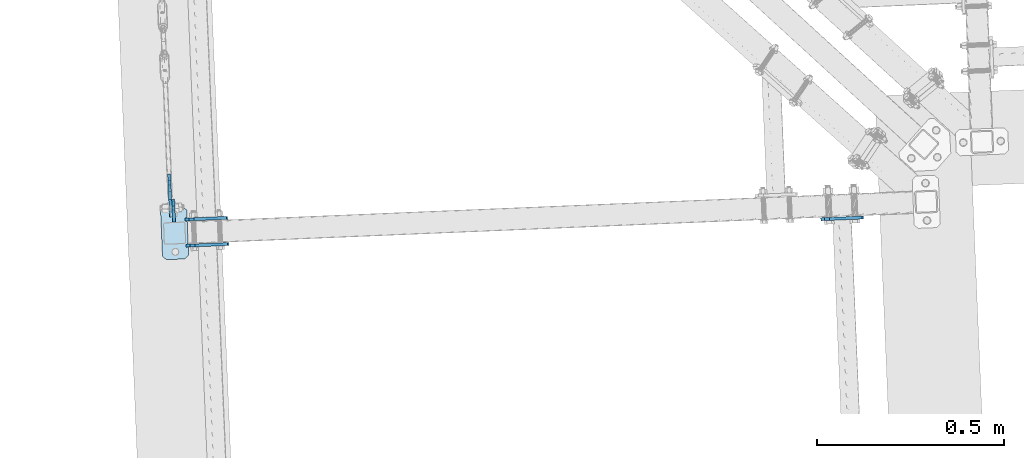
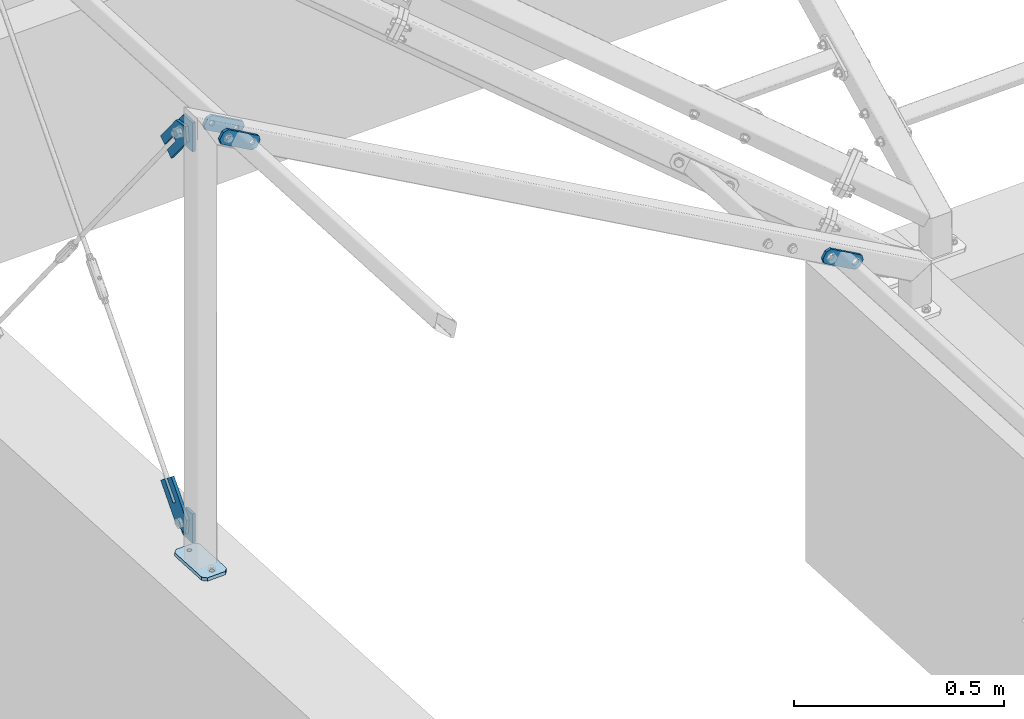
# One storey, part 51 of 288: 8 plates, 36 openings.
"""IFC2X3 building model written with IfcOpenShell, lengths in millimetres."""

from ifc_helpers import new_model, entity, si_unit, converted_unit, point, frame, frame_2d, origin, origin_with_axes, origin_2d_with_axis, place, context, project, spatial, polyline, circle_curve, line_curve, trimmed, segment, composite_curve, circle, outline, extrude, material, layer, layer_set, element, save


model = new_model("IFC2X3")

# Units and contexts
model_context = context("Model", 3, precision=1e-09, world=origin_with_axes())
ifc_project = project(units=[si_unit("LENGTHUNIT", "METRE", prefix="MILLI"), si_unit("AREAUNIT", "SQUARE_METRE"), si_unit("VOLUMEUNIT", "CUBIC_METRE"), converted_unit("PLANEANGLEUNIT", "DEGREE", entity("IfcPlaneAngleMeasure", 0.01745329), si_unit("PLANEANGLEUNIT", "RADIAN"), dimensions=[0, 0, 0, 0, 0, 0, 0])], contexts=[model_context])

# Site, building, storey
site_placement = place(None, origin_with_axes())
site = spatial("IfcSite", under=ifc_project, at=site_placement, Name="Remont ?wietlik?w nad MC w NCPP w Opolu", CompositionType="ELEMENT")
building_placement = place(site_placement, origin_with_axes())
building = spatial("IfcBuilding", under=site, at=building_placement, Name="Konstrukcja 1", CompositionType="ELEMENT")
storey_placement = place(building_placement, origin_with_axes())
storey = spatial("IfcBuildingStorey", under=building, at=storey_placement, Name="Default Storey", CompositionType="ELEMENT", Elevation=0.0)

# Plate, openings
ifc_material = material(Name="S235")
ifc_layer_1 = layer(ifc_material, 8.0)
ifc_layer_set_1 = layer_set([ifc_layer_1], Name="S235")
plate_1_placement = place(None, frame((-658.114803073, 13368.65437048, 1232.68059471), z_axis=(-0.041662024, 0.999131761, 1.7472e-05), x_axis=(0.499566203, 0.020815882, 0.866025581)))
plate_1 = element("IfcPlate", 1, at=plate_1_placement, inside=storey, material=ifc_layer_set_1, Name="-", ObjectType="-", context=model_context, shape_type="SweptSolid", body=[
    extrude(outline(polyline([(0.0, 0.0), (40.0, 0.0), (40.0, 120.0), (0.0, 120.0), (0.0, 0.0)])), origin_with_axes(), (0.0, 0.0, 1.0), 8.0),
])
opening_1_placement = place(plate_1_placement, frame((0.0, 0.0, -0.01), z_axis=(0.0, 0.0, 1.0), x_axis=(1.0, 0.0, 0.0)))
element("IfcOpeningElement", 2, at=opening_1_placement, cuts=plate_1, ObjectType="Opening", context=model_context, shape_type="SweptSolid", body=[
    extrude(outline(composite_curve([segment(trimmed(line_curve((40.0, 0.0), (0.0, 1.0), 10.0), [point((40.0, 0.0))], [point((40.0, 10.0))], True, "CARTESIAN"), True, "CONTINUOUS"), segment(trimmed(circle_curve(frame_2d((30.0, 10.0), x_axis=(-1.0, 0.0)), 10.0), [point((40.0, 10.0))], [point((30.0, 0.0))], False, "CARTESIAN"), True, "CONTINUOUS"), segment(trimmed(line_curve((30.0, 0.0), (1.0, 0.0), 10.0), [point((30.0, 0.0))], [point((40.0, 0.0))], True, "CARTESIAN"), True, "CONTINUOUS")], self_intersect=False)), origin(), (0.0, 0.0, 1.0), 8.02),
])
opening_2_placement = place(plate_1_placement, frame((0.0, 0.0, -0.01), z_axis=(0.0, 0.0, 1.0), x_axis=(1.0, 0.0, 0.0)))
element("IfcOpeningElement", 3, at=opening_2_placement, cuts=plate_1, ObjectType="Opening", context=model_context, shape_type="SweptSolid", body=[
    extrude(outline(composite_curve([segment(trimmed(line_curve((0.0, 0.0), (1.0, 0.0), 10.0), [point((0.0, 0.0))], [point((10.0, 0.0))], True, "CARTESIAN"), True, "CONTINUOUS"), segment(trimmed(circle_curve(frame_2d((10.0, 10.0), x_axis=(-1.0, 0.0)), 10.0), [point((10.0, 0.0))], [point((0.0, 10.0))], False, "CARTESIAN"), True, "CONTINUOUS"), segment(trimmed(line_curve((0.0, 10.0), (0.0, -1.0), 10.0), [point((0.0, 10.0))], [point((0.0, 0.0))], True, "CARTESIAN"), True, "CONTINUOUS")], self_intersect=False)), origin(), (0.0, 0.0, 1.0), 8.02),
])
opening_3_placement = place(plate_1_placement, frame((0.0, 0.0, -0.01), z_axis=(0.0, 0.0, 1.0), x_axis=(1.0, 0.0, 0.0)))
element("IfcOpeningElement", 4, at=opening_3_placement, cuts=plate_1, ObjectType="Opening", context=model_context, shape_type="SweptSolid", body=[
    extrude(outline(composite_curve([segment(trimmed(line_curve((40.0, 120.0), (-1.0, 0.0), 10.0), [point((40.0, 120.0))], [point((30.0, 120.0))], True, "CARTESIAN"), True, "CONTINUOUS"), segment(trimmed(circle_curve(frame_2d((30.0, 110.0), x_axis=(-1.0, 0.0)), 10.0), [point((30.0, 120.0))], [point((40.0, 110.0))], False, "CARTESIAN"), True, "CONTINUOUS"), segment(trimmed(line_curve((40.0, 110.0), (0.0, 1.0), 10.0), [point((40.0, 110.0))], [point((40.0, 120.0))], True, "CARTESIAN"), True, "CONTINUOUS")], self_intersect=False)), origin(), (0.0, 0.0, 1.0), 8.02),
])
opening_4_placement = place(plate_1_placement, frame((0.0, 0.0, -0.01), z_axis=(0.0, 0.0, 1.0), x_axis=(1.0, 0.0, 0.0)))
element("IfcOpeningElement", 5, at=opening_4_placement, cuts=plate_1, ObjectType="Opening", context=model_context, shape_type="SweptSolid", body=[
    extrude(outline(composite_curve([segment(trimmed(line_curve((0.0, 120.0), (0.0, -1.0), 10.0), [point((0.0, 120.0))], [point((0.0, 110.0))], True, "CARTESIAN"), True, "CONTINUOUS"), segment(trimmed(circle_curve(frame_2d((10.0, 110.0), x_axis=(-1.0, 0.0)), 10.0), [point((0.0, 110.0))], [point((10.0, 120.0))], False, "CARTESIAN"), True, "CONTINUOUS"), segment(trimmed(line_curve((10.0, 120.0), (-1.0, 0.0), 10.0), [point((10.0, 120.0))], [point((0.0, 120.0))], True, "CARTESIAN"), True, "CONTINUOUS")], self_intersect=False)), origin(), (0.0, 0.0, 1.0), 8.02),
])
opening_5_placement = place(plate_1_placement, frame((19.998425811, 27.001033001, 8.499903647), z_axis=(-2.0054e-05, 4.2e-07, 1.0), x_axis=(1.0, 0.0, 2.0054e-05)))
element("IfcOpeningElement", 6, at=opening_5_placement, cuts=plate_1, ObjectType="Opening", context=model_context, shape_type="SweptSolid", body=[
    extrude(circle(Radius=7.001, at=frame_2d((-4e-09, -7.001), x_axis=(1.0, 0.0))), origin(), (0.0, 0.0, -1.0), 9.000033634),
])
opening_6_placement = place(plate_1_placement, frame((19.998425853, 107.001033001, 8.499870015), z_axis=(-2.0054e-05, 4.2e-07, 1.0), x_axis=(1.0, 0.0, 2.0054e-05)))
element("IfcOpeningElement", 7, at=opening_6_placement, cuts=plate_1, ObjectType="Opening", context=model_context, shape_type="SweptSolid", body=[
    extrude(circle(Radius=7.001, at=frame_2d((-4e-09, -7.001), x_axis=(1.0, 0.0))), origin(), (0.0, 0.0, -1.0), 9.000033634),
])

plate_2_placement = place(None, frame((-655.198461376, 13298.715147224, 1232.679371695), z_axis=(-0.041662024, 0.999131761, 1.7472e-05), x_axis=(0.499566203, 0.020815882, 0.866025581)))
plate_2 = element("IfcPlate", 8, at=plate_2_placement, inside=storey, material=ifc_layer_set_1, Name="-", ObjectType="-", context=model_context, shape_type="SweptSolid", body=[
    extrude(outline(polyline([(0.0, 0.0), (40.0, 0.0), (40.0, 120.0), (0.0, 120.0), (0.0, 0.0)])), origin_with_axes(), (0.0, 0.0, 1.0), 8.0),
])
opening_7_placement = place(plate_2_placement, frame((0.0, 0.0, -0.01), z_axis=(0.0, 0.0, 1.0), x_axis=(1.0, 0.0, 0.0)))
element("IfcOpeningElement", 9, at=opening_7_placement, cuts=plate_2, ObjectType="Opening", context=model_context, shape_type="SweptSolid", body=[
    extrude(outline(composite_curve([segment(trimmed(line_curve((40.0, 0.0), (0.0, 1.0), 10.0), [point((40.0, 0.0))], [point((40.0, 10.0))], True, "CARTESIAN"), True, "CONTINUOUS"), segment(trimmed(circle_curve(frame_2d((30.0, 10.0), x_axis=(-1.0, 0.0)), 10.0), [point((40.0, 10.0))], [point((30.0, 0.0))], False, "CARTESIAN"), True, "CONTINUOUS"), segment(trimmed(line_curve((30.0, 0.0), (1.0, 0.0), 10.0), [point((30.0, 0.0))], [point((40.0, 0.0))], True, "CARTESIAN"), True, "CONTINUOUS")], self_intersect=False)), origin(), (0.0, 0.0, 1.0), 8.02),
])
opening_8_placement = place(plate_2_placement, frame((0.0, 0.0, -0.01), z_axis=(0.0, 0.0, 1.0), x_axis=(1.0, 0.0, 0.0)))
element("IfcOpeningElement", 10, at=opening_8_placement, cuts=plate_2, ObjectType="Opening", context=model_context, shape_type="SweptSolid", body=[
    extrude(outline(composite_curve([segment(trimmed(line_curve((0.0, 0.0), (1.0, 0.0), 10.0), [point((0.0, 0.0))], [point((10.0, 0.0))], True, "CARTESIAN"), True, "CONTINUOUS"), segment(trimmed(circle_curve(frame_2d((10.0, 10.0), x_axis=(-1.0, 0.0)), 10.0), [point((10.0, 0.0))], [point((0.0, 10.0))], False, "CARTESIAN"), True, "CONTINUOUS"), segment(trimmed(line_curve((0.0, 10.0), (0.0, -1.0), 10.0), [point((0.0, 10.0))], [point((0.0, 0.0))], True, "CARTESIAN"), True, "CONTINUOUS")], self_intersect=False)), origin(), (0.0, 0.0, 1.0), 8.02),
])
opening_9_placement = place(plate_2_placement, frame((0.0, 0.0, -0.01), z_axis=(0.0, 0.0, 1.0), x_axis=(1.0, 0.0, 0.0)))
element("IfcOpeningElement", 11, at=opening_9_placement, cuts=plate_2, ObjectType="Opening", context=model_context, shape_type="SweptSolid", body=[
    extrude(outline(composite_curve([segment(trimmed(line_curve((40.0, 120.0), (-1.0, 0.0), 10.0), [point((40.0, 120.0))], [point((30.0, 120.0))], True, "CARTESIAN"), True, "CONTINUOUS"), segment(trimmed(circle_curve(frame_2d((30.0, 110.0), x_axis=(-1.0, 0.0)), 10.0), [point((30.0, 120.0))], [point((40.0, 110.0))], False, "CARTESIAN"), True, "CONTINUOUS"), segment(trimmed(line_curve((40.0, 110.0), (0.0, 1.0), 10.0), [point((40.0, 110.0))], [point((40.0, 120.0))], True, "CARTESIAN"), True, "CONTINUOUS")], self_intersect=False)), origin(), (0.0, 0.0, 1.0), 8.02),
])
opening_10_placement = place(plate_2_placement, frame((0.0, 0.0, -0.01), z_axis=(0.0, 0.0, 1.0), x_axis=(1.0, 0.0, 0.0)))
element("IfcOpeningElement", 12, at=opening_10_placement, cuts=plate_2, ObjectType="Opening", context=model_context, shape_type="SweptSolid", body=[
    extrude(outline(composite_curve([segment(trimmed(line_curve((0.0, 120.0), (0.0, -1.0), 10.0), [point((0.0, 120.0))], [point((0.0, 110.0))], True, "CARTESIAN"), True, "CONTINUOUS"), segment(trimmed(circle_curve(frame_2d((10.0, 110.0), x_axis=(-1.0, 0.0)), 10.0), [point((0.0, 110.0))], [point((10.0, 120.0))], False, "CARTESIAN"), True, "CONTINUOUS"), segment(trimmed(line_curve((10.0, 120.0), (-1.0, 0.0), 10.0), [point((10.0, 120.0))], [point((0.0, 120.0))], True, "CARTESIAN"), True, "CONTINUOUS")], self_intersect=False)), origin(), (0.0, 0.0, 1.0), 8.02),
])
opening_11_placement = place(plate_2_placement, frame((19.999829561, 27.001003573, 8.499903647), z_axis=(-2.0054e-05, 4.2e-07, 1.0), x_axis=(1.0, 0.0, 2.0054e-05)))
element("IfcOpeningElement", 13, at=opening_11_placement, cuts=plate_2, ObjectType="Opening", context=model_context, shape_type="SweptSolid", body=[
    extrude(circle(Radius=7.001, at=frame_2d((-4e-09, -7.001), x_axis=(1.0, 0.0))), origin(), (0.0, 0.0, -1.0), 9.000033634),
])
opening_12_placement = place(plate_2_placement, frame((19.999829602, 107.001003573, 8.499870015), z_axis=(-2.0054e-05, 4.2e-07, 1.0), x_axis=(1.0, 0.0, 2.0054e-05)))
element("IfcOpeningElement", 14, at=opening_12_placement, cuts=plate_2, ObjectType="Opening", context=model_context, shape_type="SweptSolid", body=[
    extrude(circle(Radius=7.001, at=frame_2d((-4e-09, -7.001), x_axis=(1.0, 0.0))), origin(), (0.0, 0.0, -1.0), 9.000033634),
])

plate_3_placement = place(None, frame((1039.997319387, 13369.418089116, 249.851060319), z_axis=(-0.041662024, 0.999131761, 1.7472e-05), x_axis=(0.499566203, 0.020815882, 0.866025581)))
plate_3 = element("IfcPlate", 15, at=plate_3_placement, inside=storey, material=ifc_layer_set_1, Name="-", ObjectType="-", context=model_context, shape_type="SweptSolid", body=[
    extrude(outline(polyline([(0.0, 0.0), (40.0, 0.0), (40.0, 120.0), (0.0, 120.0), (0.0, 0.0)])), origin_with_axes(), (0.0, 0.0, 1.0), 8.0),
])
opening_13_placement = place(plate_3_placement, frame((0.0, 0.0, -0.01), z_axis=(0.0, 0.0, 1.0), x_axis=(1.0, 0.0, 0.0)))
element("IfcOpeningElement", 16, at=opening_13_placement, cuts=plate_3, ObjectType="Opening", context=model_context, shape_type="SweptSolid", body=[
    extrude(outline(composite_curve([segment(trimmed(line_curve((40.0, 0.0), (0.0, 1.0), 10.0), [point((40.0, 0.0))], [point((40.0, 10.0))], True, "CARTESIAN"), True, "CONTINUOUS"), segment(trimmed(circle_curve(frame_2d((30.0, 10.0), x_axis=(-1.0, 0.0)), 10.0), [point((40.0, 10.0))], [point((30.0, 0.0))], False, "CARTESIAN"), True, "CONTINUOUS"), segment(trimmed(line_curve((30.0, 0.0), (1.0, 0.0), 10.0), [point((30.0, 0.0))], [point((40.0, 0.0))], True, "CARTESIAN"), True, "CONTINUOUS")], self_intersect=False)), origin(), (0.0, 0.0, 1.0), 8.02),
])
opening_14_placement = place(plate_3_placement, frame((0.0, 0.0, -0.01), z_axis=(0.0, 0.0, 1.0), x_axis=(1.0, 0.0, 0.0)))
element("IfcOpeningElement", 17, at=opening_14_placement, cuts=plate_3, ObjectType="Opening", context=model_context, shape_type="SweptSolid", body=[
    extrude(outline(composite_curve([segment(trimmed(line_curve((0.0, 0.0), (1.0, 0.0), 10.0), [point((0.0, 0.0))], [point((10.0, 0.0))], True, "CARTESIAN"), True, "CONTINUOUS"), segment(trimmed(circle_curve(frame_2d((10.0, 10.0), x_axis=(-1.0, 0.0)), 10.0), [point((10.0, 0.0))], [point((0.0, 10.0))], False, "CARTESIAN"), True, "CONTINUOUS"), segment(trimmed(line_curve((0.0, 10.0), (0.0, -1.0), 10.0), [point((0.0, 10.0))], [point((0.0, 0.0))], True, "CARTESIAN"), True, "CONTINUOUS")], self_intersect=False)), origin(), (0.0, 0.0, 1.0), 8.02),
])
opening_15_placement = place(plate_3_placement, frame((0.0, 0.0, -0.01), z_axis=(0.0, 0.0, 1.0), x_axis=(1.0, 0.0, 0.0)))
element("IfcOpeningElement", 18, at=opening_15_placement, cuts=plate_3, ObjectType="Opening", context=model_context, shape_type="SweptSolid", body=[
    extrude(outline(composite_curve([segment(trimmed(line_curve((40.0, 120.0), (-1.0, 0.0), 10.0), [point((40.0, 120.0))], [point((30.0, 120.0))], True, "CARTESIAN"), True, "CONTINUOUS"), segment(trimmed(circle_curve(frame_2d((30.0, 110.0), x_axis=(-1.0, 0.0)), 10.0), [point((30.0, 120.0))], [point((40.0, 110.0))], False, "CARTESIAN"), True, "CONTINUOUS"), segment(trimmed(line_curve((40.0, 110.0), (0.0, 1.0), 10.0), [point((40.0, 110.0))], [point((40.0, 120.0))], True, "CARTESIAN"), True, "CONTINUOUS")], self_intersect=False)), origin(), (0.0, 0.0, 1.0), 8.02),
])
opening_16_placement = place(plate_3_placement, frame((0.0, 0.0, -0.01), z_axis=(0.0, 0.0, 1.0), x_axis=(1.0, 0.0, 0.0)))
element("IfcOpeningElement", 19, at=opening_16_placement, cuts=plate_3, ObjectType="Opening", context=model_context, shape_type="SweptSolid", body=[
    extrude(outline(composite_curve([segment(trimmed(line_curve((0.0, 120.0), (0.0, -1.0), 10.0), [point((0.0, 120.0))], [point((0.0, 110.0))], True, "CARTESIAN"), True, "CONTINUOUS"), segment(trimmed(circle_curve(frame_2d((10.0, 110.0), x_axis=(-1.0, 0.0)), 10.0), [point((0.0, 110.0))], [point((10.0, 120.0))], False, "CARTESIAN"), True, "CONTINUOUS"), segment(trimmed(line_curve((10.0, 120.0), (-1.0, 0.0), 10.0), [point((10.0, 120.0))], [point((0.0, 120.0))], True, "CARTESIAN"), True, "CONTINUOUS")], self_intersect=False)), origin(), (0.0, 0.0, 1.0), 8.02),
])
opening_17_placement = place(plate_3_placement, frame((19.999829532, 29.001003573, 8.499866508), z_axis=(-2.0054e-05, 4.2e-07, 1.0), x_axis=(1.0, 0.0, 2.0054e-05)))
element("IfcOpeningElement", 20, at=opening_17_placement, cuts=plate_3, ObjectType="Opening", context=model_context, shape_type="SweptSolid", body=[
    extrude(circle(Radius=9.001, at=frame_2d((-5e-09, -9.001), x_axis=(1.0, 0.0))), origin(), (0.0, 0.0, -1.0), 9.000033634),
])
opening_18_placement = place(plate_3_placement, frame((19.999829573, 109.001003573, 8.499832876), z_axis=(-2.0054e-05, 4.2e-07, 1.0), x_axis=(1.0, 0.0, 2.0054e-05)))
element("IfcOpeningElement", 21, at=opening_18_placement, cuts=plate_3, ObjectType="Opening", context=model_context, shape_type="SweptSolid", body=[
    extrude(circle(Radius=9.001, at=frame_2d((-5e-09, -9.001), x_axis=(1.0, 0.0))), origin(), (0.0, 0.0, -1.0), 9.000033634),
])

ifc_layer_2 = layer(ifc_material, 10.0)
ifc_layer_set_2 = layer_set([ifc_layer_2], Name="S235")
plate_4_placement = place(None, frame((-719.241832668, 13405.138372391, 10.000000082), z_axis=(0.0, 0.0, -1.0), x_axis=(0.999131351, 0.041671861, 0.0)))
plate_4 = element("IfcPlate", 22, at=plate_4_placement, inside=storey, material=ifc_layer_set_2, Name="Baseplate", ObjectType="Baseplate", context=model_context, shape_type="SweptSolid", body=[
    extrude(outline(polyline([(0.0, 0.0), (70.0, 0.0), (70.0, 140.0), (0.0, 140.0), (0.0, 0.0)])), origin_with_axes(), (0.0, 0.0, 1.0), 10.0),
])
opening_19_placement = place(plate_4_placement, frame((0.0, 0.0, -0.01), z_axis=(0.0, 0.0, 1.0), x_axis=(1.0, 0.0, 0.0)))
element("IfcOpeningElement", 23, at=opening_19_placement, cuts=plate_4, ObjectType="Opening", context=model_context, shape_type="SweptSolid", body=[
    extrude(outline(composite_curve([segment(trimmed(line_curve((70.0, 0.0), (0.0, 1.0), 10.0), [point((70.0, 0.0))], [point((70.0, 10.0))], True, "CARTESIAN"), True, "CONTINUOUS"), segment(trimmed(circle_curve(frame_2d((60.0, 10.0), x_axis=(-1.0, 0.0)), 10.0), [point((70.0, 10.0))], [point((60.0, 0.0))], False, "CARTESIAN"), True, "CONTINUOUS"), segment(trimmed(line_curve((60.0, 0.0), (1.0, 0.0), 10.0), [point((60.0, 0.0))], [point((70.0, 0.0))], True, "CARTESIAN"), True, "CONTINUOUS")], self_intersect=False)), origin(), (0.0, 0.0, 1.0), 10.02),
])
opening_20_placement = place(plate_4_placement, frame((0.0, 0.0, -0.01), z_axis=(0.0, 0.0, 1.0), x_axis=(1.0, 0.0, 0.0)))
element("IfcOpeningElement", 24, at=opening_20_placement, cuts=plate_4, ObjectType="Opening", context=model_context, shape_type="SweptSolid", body=[
    extrude(outline(composite_curve([segment(trimmed(line_curve((0.0, 0.0), (1.0, 0.0), 10.0), [point((0.0, 0.0))], [point((10.0, 0.0))], True, "CARTESIAN"), True, "CONTINUOUS"), segment(trimmed(circle_curve(frame_2d((10.0, 10.0), x_axis=(-1.0, 0.0)), 10.0), [point((10.0, 0.0))], [point((0.0, 10.0))], False, "CARTESIAN"), True, "CONTINUOUS"), segment(trimmed(line_curve((0.0, 10.0), (0.0, -1.0), 10.0), [point((0.0, 10.0))], [point((0.0, 0.0))], True, "CARTESIAN"), True, "CONTINUOUS")], self_intersect=False)), origin(), (0.0, 0.0, 1.0), 10.02),
])
opening_21_placement = place(plate_4_placement, frame((0.0, 0.0, -0.01), z_axis=(0.0, 0.0, 1.0), x_axis=(1.0, 0.0, 0.0)))
element("IfcOpeningElement", 25, at=opening_21_placement, cuts=plate_4, ObjectType="Opening", context=model_context, shape_type="SweptSolid", body=[
    extrude(outline(composite_curve([segment(trimmed(line_curve((70.0, 140.0), (-1.0, 0.0), 10.0), [point((70.0, 140.0))], [point((60.0, 140.0))], True, "CARTESIAN"), True, "CONTINUOUS"), segment(trimmed(circle_curve(frame_2d((60.0, 130.0), x_axis=(-1.0, 0.0)), 10.0), [point((60.0, 140.0))], [point((70.0, 130.0))], False, "CARTESIAN"), True, "CONTINUOUS"), segment(trimmed(line_curve((70.0, 130.0), (0.0, 1.0), 10.0), [point((70.0, 130.0))], [point((70.0, 140.0))], True, "CARTESIAN"), True, "CONTINUOUS")], self_intersect=False)), origin(), (0.0, 0.0, 1.0), 10.02),
])
opening_22_placement = place(plate_4_placement, frame((0.0, 0.0, -0.01), z_axis=(0.0, 0.0, 1.0), x_axis=(1.0, 0.0, 0.0)))
element("IfcOpeningElement", 26, at=opening_22_placement, cuts=plate_4, ObjectType="Opening", context=model_context, shape_type="SweptSolid", body=[
    extrude(outline(composite_curve([segment(trimmed(line_curve((0.0, 140.0), (0.0, -1.0), 10.0), [point((0.0, 140.0))], [point((0.0, 130.0))], True, "CARTESIAN"), True, "CONTINUOUS"), segment(trimmed(circle_curve(frame_2d((10.0, 130.0), x_axis=(-1.0, 0.0)), 10.0), [point((0.0, 130.0))], [point((10.0, 140.0))], False, "CARTESIAN"), True, "CONTINUOUS"), segment(trimmed(line_curve((10.0, 140.0), (-1.0, 0.0), 10.0), [point((10.0, 140.0))], [point((0.0, 140.0))], True, "CARTESIAN"), True, "CONTINUOUS")], self_intersect=False)), origin(), (0.0, 0.0, 1.0), 10.02),
])
opening_23_placement = place(plate_4_placement, frame((35.0, 120.0, 10.5), z_axis=(0.0, 0.0, -1.0), x_axis=(1.0, 0.0, 0.0)))
element("IfcOpeningElement", 27, at=opening_23_placement, cuts=plate_4, ObjectType="Opening", context=model_context, shape_type="SweptSolid", body=[
    extrude(circle(Radius=6.001, at=origin_2d_with_axis()), origin(), (0.0, 0.0, 1.0), 11.0),
])
opening_24_placement = place(plate_4_placement, frame((35.0, 20.0, 10.5), z_axis=(0.0, 0.0, -1.0), x_axis=(1.0, 0.0, 0.0)))
element("IfcOpeningElement", 28, at=opening_24_placement, cuts=plate_4, ObjectType="Opening", context=model_context, shape_type="SweptSolid", body=[
    extrude(circle(Radius=6.001, at=origin_2d_with_axis()), origin(), (0.0, 0.0, 1.0), 11.0),
])

plate_5_placement = place(None, frame((-699.955825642, 13494.665109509, 153.274364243), z_axis=(0.999131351, 0.041671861, 0.0), x_axis=(0.032761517, -0.785495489, 0.617999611)))
plate_5 = element("IfcPlate", 29, at=plate_5_placement, inside=storey, material=ifc_layer_set_1, Name="Tab_Plate#1", ObjectType="Tab_Plate#1", context=model_context, shape_type="SweptSolid", body=[
    extrude(outline(polyline([(0.0, 0.0), (60.0, 0.0), (60.0, 140.0), (0.0, 140.0), (0.0, 0.0)])), origin_with_axes(), (0.0, 0.0, 1.0), 8.0),
])
opening_25_placement = place(plate_5_placement, frame((0.0, 0.0, -0.01), z_axis=(0.0, 0.0, 1.0), x_axis=(1.0, 0.0, 0.0)))
element("IfcOpeningElement", 30, at=opening_25_placement, cuts=plate_5, ObjectType="Opening", context=model_context, shape_type="SweptSolid", body=[
    extrude(outline(composite_curve([segment(trimmed(line_curve((60.0, 140.0), (-1.0, 0.0), 30.0), [point((60.0, 140.0))], [point((30.0, 140.0))], True, "CARTESIAN"), True, "CONTINUOUS"), segment(trimmed(circle_curve(frame_2d((30.0, 110.0), x_axis=(-1.0, 0.0)), 30.0), [point((30.0, 140.0))], [point((60.0, 110.0))], False, "CARTESIAN"), True, "CONTINUOUS"), segment(trimmed(line_curve((60.0, 110.0), (0.0, 1.0), 30.0), [point((60.0, 110.0))], [point((60.0, 140.0))], True, "CARTESIAN"), True, "CONTINUOUS")], self_intersect=False)), origin(), (0.0, 0.0, 1.0), 8.02),
])
opening_26_placement = place(plate_5_placement, frame((0.0, 0.0, -0.01), z_axis=(0.0, 0.0, 1.0), x_axis=(1.0, 0.0, 0.0)))
element("IfcOpeningElement", 31, at=opening_26_placement, cuts=plate_5, ObjectType="Opening", context=model_context, shape_type="SweptSolid", body=[
    extrude(outline(composite_curve([segment(trimmed(line_curve((0.0, 140.0), (0.0, -1.0), 30.0), [point((0.0, 140.0))], [point((0.0, 110.0))], True, "CARTESIAN"), True, "CONTINUOUS"), segment(trimmed(circle_curve(frame_2d((30.0, 110.0), x_axis=(-1.0, 0.0)), 30.0), [point((0.0, 110.0))], [point((30.0, 140.0))], False, "CARTESIAN"), True, "CONTINUOUS"), segment(trimmed(line_curve((30.0, 140.0), (-1.0, 0.0), 30.0), [point((30.0, 140.0))], [point((0.0, 140.0))], True, "CARTESIAN"), True, "CONTINUOUS")], self_intersect=False)), origin(), (0.0, 0.0, 1.0), 8.02),
])
opening_27_placement = place(plate_5_placement, frame((0.0, 0.0, 8.1), z_axis=(0.0, 0.0, -1.0), x_axis=(0.786178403, 0.617999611, 0.0)))
element("IfcOpeningElement", 32, at=opening_27_placement, cuts=plate_5, ObjectType="Opening", context=model_context, shape_type="SweptSolid", body=[
    extrude(outline(polyline([(55.779911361, -33.744295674), (66.787981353, -25.091065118), (29.088769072, 22.867389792), (18.08069908, 14.214159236), (55.779911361, -33.744295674)])), origin(), (0.0, 0.0, 1.0), 8.2),
])
opening_28_placement = place(plate_5_placement, frame((30.0, 110.0, 8.5), z_axis=(0.0, 0.0, -1.0), x_axis=(0.0, -1.0, 0.0)))
element("IfcOpeningElement", 33, at=opening_28_placement, cuts=plate_5, ObjectType="Opening", context=model_context, shape_type="SweptSolid", body=[
    extrude(circle(Radius=9.001, at=origin_2d_with_axis()), origin(), (0.0, 0.0, 1.0), 9.0),
])

plate_6_placement = place(None, frame((-679.943777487, 13398.805107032, 127.460068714), z_axis=(-0.999131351, -0.041671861, 0.0), x_axis=(-0.032761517, 0.785495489, -0.617999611)))
plate_6 = element("IfcPlate", 34, at=plate_6_placement, inside=storey, material=ifc_layer_set_1, Name="Gusset#1", ObjectType="Gusset#1", context=model_context, shape_type="SweptSolid", body=[
    extrude(outline(polyline([(0.0, 0.0), (60.0, 0.0), (60.0, 60.0), (26.881967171, 86.033443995), (-25.18492082, 19.797378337), (0.0, 0.0)])), origin_with_axes(), (0.0, 0.0, 1.0), 8.0),
])
opening_29_placement = place(plate_6_placement, frame((30.0, 30.0, -0.5), z_axis=(0.0, 0.0, 1.0), x_axis=(0.0, -1.0, 0.0)))
element("IfcOpeningElement", 35, at=opening_29_placement, cuts=plate_6, ObjectType="Opening", context=model_context, shape_type="SweptSolid", body=[
    extrude(circle(Radius=9.001, at=origin_2d_with_axis()), origin(), (0.0, 0.0, 1.0), 9.0),
])
opening_30_placement = place(plate_6_placement, frame((0.0, 0.0, -0.01), z_axis=(0.0, 0.0, 1.0), x_axis=(1.0, 0.0, 0.0)))
element("IfcOpeningElement", 36, at=opening_30_placement, cuts=plate_6, ObjectType="Opening", context=model_context, shape_type="SweptSolid", body=[
    extrude(outline(composite_curve([segment(trimmed(line_curve((60.0, 0.0), (0.0, 1.0), 30.0), [point((60.0, 0.0))], [point((60.0, 30.0))], True, "CARTESIAN"), True, "CONTINUOUS"), segment(trimmed(circle_curve(frame_2d((30.0, 30.0), x_axis=(-1.0, 0.0)), 30.0), [point((60.0, 30.0))], [point((30.0, 0.0))], False, "CARTESIAN"), True, "CONTINUOUS"), segment(trimmed(line_curve((30.0, 0.0), (1.0, 0.0), 30.0), [point((30.0, 0.0))], [point((60.0, 0.0))], True, "CARTESIAN"), True, "CONTINUOUS")], self_intersect=False)), origin(), (0.0, 0.0, 1.0), 8.02),
])

plate_7_placement = place(None, frame((-691.962774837, 13494.998484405, 1151.725635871), z_axis=(-0.999131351, -0.041671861, 0.0), x_axis=(0.032761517, -0.785495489, -0.617999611)))
plate_7 = element("IfcPlate", 37, at=plate_7_placement, inside=storey, material=ifc_layer_set_1, Name="Tab_Plate#2", ObjectType="Tab_Plate#2", context=model_context, shape_type="SweptSolid", body=[
    extrude(outline(polyline([(0.0, 0.0), (60.0, 0.0), (60.0, 140.0), (0.0, 140.0), (0.0, 0.0)])), origin_with_axes(), (0.0, 0.0, 1.0), 8.0),
])
opening_31_placement = place(plate_7_placement, frame((0.0, 0.0, -0.01), z_axis=(0.0, 0.0, 1.0), x_axis=(1.0, 0.0, 0.0)))
element("IfcOpeningElement", 38, at=opening_31_placement, cuts=plate_7, ObjectType="Opening", context=model_context, shape_type="SweptSolid", body=[
    extrude(outline(composite_curve([segment(trimmed(line_curve((60.0, 140.0), (-1.0, 0.0), 30.0), [point((60.0, 140.0))], [point((30.0, 140.0))], True, "CARTESIAN"), True, "CONTINUOUS"), segment(trimmed(circle_curve(frame_2d((30.0, 110.0), x_axis=(-1.0, 0.0)), 30.0), [point((30.0, 140.0))], [point((60.0, 110.0))], False, "CARTESIAN"), True, "CONTINUOUS"), segment(trimmed(line_curve((60.0, 110.0), (0.0, 1.0), 30.0), [point((60.0, 110.0))], [point((60.0, 140.0))], True, "CARTESIAN"), True, "CONTINUOUS")], self_intersect=False)), origin(), (0.0, 0.0, 1.0), 8.02),
])
opening_32_placement = place(plate_7_placement, frame((0.0, 0.0, -0.01), z_axis=(0.0, 0.0, 1.0), x_axis=(1.0, 0.0, 0.0)))
element("IfcOpeningElement", 39, at=opening_32_placement, cuts=plate_7, ObjectType="Opening", context=model_context, shape_type="SweptSolid", body=[
    extrude(outline(composite_curve([segment(trimmed(line_curve((0.0, 140.0), (0.0, -1.0), 30.0), [point((0.0, 140.0))], [point((0.0, 110.0))], True, "CARTESIAN"), True, "CONTINUOUS"), segment(trimmed(circle_curve(frame_2d((30.0, 110.0), x_axis=(-1.0, 0.0)), 30.0), [point((0.0, 110.0))], [point((30.0, 140.0))], False, "CARTESIAN"), True, "CONTINUOUS"), segment(trimmed(line_curve((30.0, 140.0), (-1.0, 0.0), 30.0), [point((30.0, 140.0))], [point((0.0, 140.0))], True, "CARTESIAN"), True, "CONTINUOUS")], self_intersect=False)), origin(), (0.0, 0.0, 1.0), 8.02),
])
opening_33_placement = place(plate_7_placement, frame((0.0, 0.0, 8.1), z_axis=(0.0, 0.0, -1.0), x_axis=(-0.786178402, -0.617999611, 0.0)))
element("IfcOpeningElement", 40, at=opening_33_placement, cuts=plate_7, ObjectType="Opening", context=model_context, shape_type="SweptSolid", body=[
    extrude(outline(polyline([(-55.779911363, 33.74429567), (-66.787981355, 25.091065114), (-29.08876907, -22.867389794), (-18.080699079, -14.214159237), (-55.779911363, 33.74429567)])), origin(), (0.0, 0.0, 1.0), 8.2),
])
opening_34_placement = place(plate_7_placement, frame((30.0, 110.0, 8.5), z_axis=(0.0, 0.0, -1.0), x_axis=(0.0, -1.0, 0.0)))
element("IfcOpeningElement", 41, at=opening_34_placement, cuts=plate_7, ObjectType="Opening", context=model_context, shape_type="SweptSolid", body=[
    extrude(circle(Radius=9.001, at=origin_2d_with_axis()), origin(), (0.0, 0.0, 1.0), 9.0),
])

plate_8_placement = place(None, frame((-687.936828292, 13398.471732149, 1177.539931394), z_axis=(0.999131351, 0.041671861, 0.0), x_axis=(-0.032761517, 0.785495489, 0.617999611)))
plate_8 = element("IfcPlate", 42, at=plate_8_placement, inside=storey, material=ifc_layer_set_1, Name="Gusset#2", ObjectType="Gusset#2", context=model_context, shape_type="SweptSolid", body=[
    extrude(outline(polyline([(0.0, 0.0), (60.0, 0.0), (60.0, 60.0), (26.881967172, 86.033443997), (-25.184920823, 19.797378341), (0.0, 0.0)])), origin_with_axes(), (0.0, 0.0, 1.0), 8.0),
])
opening_35_placement = place(plate_8_placement, frame((30.0, 30.0, -0.5), z_axis=(0.0, 0.0, 1.0), x_axis=(0.0, -1.0, 0.0)))
element("IfcOpeningElement", 43, at=opening_35_placement, cuts=plate_8, ObjectType="Opening", context=model_context, shape_type="SweptSolid", body=[
    extrude(circle(Radius=9.001, at=origin_2d_with_axis()), origin(), (0.0, 0.0, 1.0), 9.0),
])
opening_36_placement = place(plate_8_placement, frame((0.0, 0.0, -0.01), z_axis=(0.0, 0.0, 1.0), x_axis=(1.0, 0.0, 0.0)))
element("IfcOpeningElement", 44, at=opening_36_placement, cuts=plate_8, ObjectType="Opening", context=model_context, shape_type="SweptSolid", body=[
    extrude(outline(composite_curve([segment(trimmed(line_curve((60.0, 0.0), (0.0, 1.0), 30.0), [point((60.0, 0.0))], [point((60.0, 30.0))], True, "CARTESIAN"), True, "CONTINUOUS"), segment(trimmed(circle_curve(frame_2d((30.0, 30.0), x_axis=(-1.0, 0.0)), 30.0), [point((60.0, 30.0))], [point((30.0, 0.0))], False, "CARTESIAN"), True, "CONTINUOUS"), segment(trimmed(line_curve((30.0, 0.0), (1.0, 0.0), 30.0), [point((30.0, 0.0))], [point((60.0, 0.0))], True, "CARTESIAN"), True, "CONTINUOUS")], self_intersect=False)), origin(), (0.0, 0.0, 1.0), 8.02),
])

save(model, "model.ifc")
